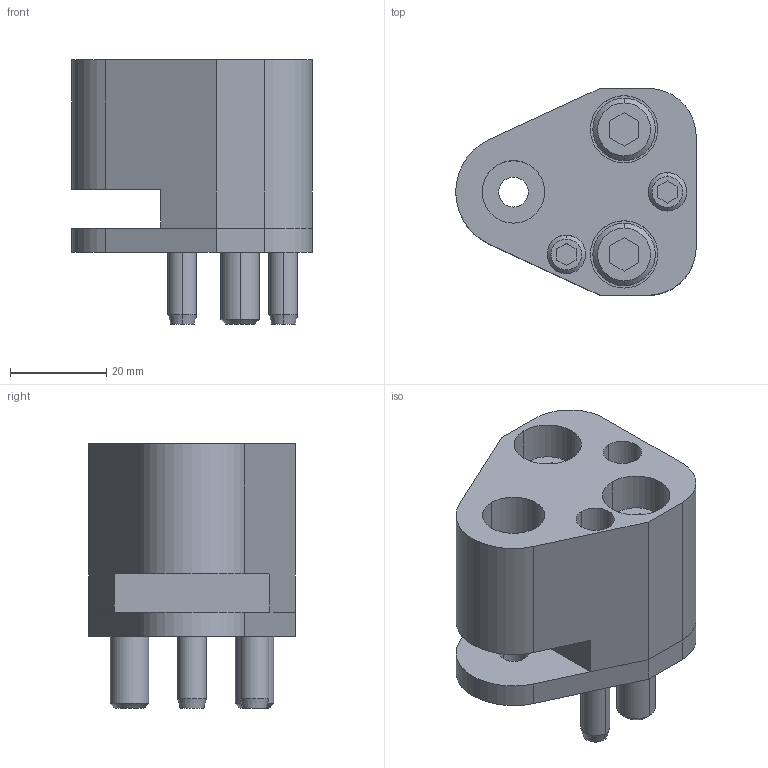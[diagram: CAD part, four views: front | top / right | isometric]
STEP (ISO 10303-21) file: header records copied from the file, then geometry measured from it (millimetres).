
FILE_DESCRIPTION(/* description */ (''),/* implementation_level */ '2;1');
FILE_NAME(/* name */ '3d_hap-fp13_02773_r00.stp',/* time_stamp */ '2011-01-10T14:14:58+09:00',/* author */ ('MISUMI'),/* organization */ (''),/* preprocessor_version */ 'ST-DEVELOPER v11',/* originating_system */ 'UGS - NX 5.0',/* authorisation */ '');
FILE_SCHEMA (('CONFIG_CONTROL_DESIGN'));
Length unit declared in the file: millimetre
Products named in the file (1): 3d_hap-fp13_02773_r00
Bounding box: 50 x 43 x 55 mm (x, y, z)
Volume: 55865 mm3; surface area: 22669.2 mm2
Topology: 8 solids, 8 shells, 156 faces, 356 edges, 229 vertices
Faces by surface type: plane 70, cylinder 60, cone 26
Entity records: 4562 total; most frequent: DIRECTION 812, CARTESIAN_POINT 795, ORIENTED_EDGE 712, EDGE_CURVE 356, AXIS2_PLACEMENT_3D 304, VERTEX_POINT 229, LINE 204, VECTOR 204
